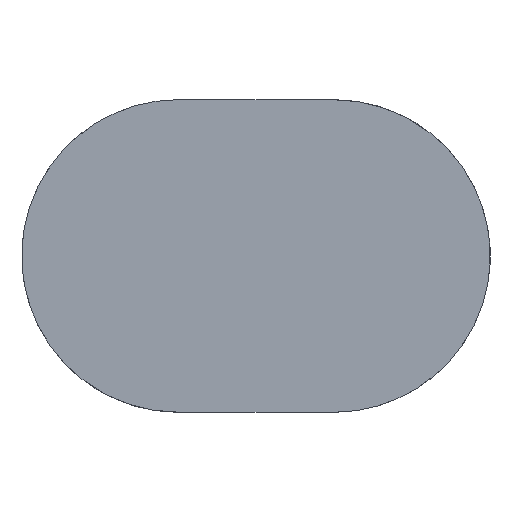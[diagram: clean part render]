
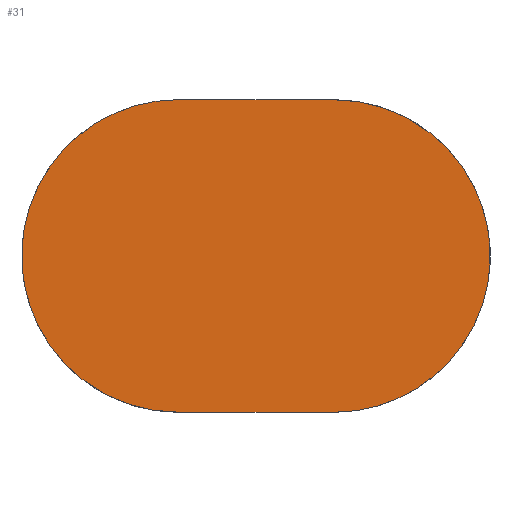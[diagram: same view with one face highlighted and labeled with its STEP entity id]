
A CAD part, top view. The second image highlights one B-rep face of the part: STEP entity #31.
In plain terms, the highlighted free-form (B-spline) face has degree [1, 1] with [2, 2] control points.
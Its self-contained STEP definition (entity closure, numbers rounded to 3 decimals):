
#31=ADVANCED_FACE('',(#48),#551,.T.);
#48=FACE_OUTER_BOUND('',#66,.T.);
#66=EDGE_LOOP('',(#137,#138,#139,#140));
#137=ORIENTED_EDGE('',*,*,#444,.F.);
#138=ORIENTED_EDGE('',*,*,#448,.F.);
#139=ORIENTED_EDGE('',*,*,#451,.F.);
#140=ORIENTED_EDGE('',*,*,#453,.F.);
#197=PCURVE('',#556,#279);
#201=PCURVE('',#557,#283);
#205=PCURVE('',#558,#287);
#209=PCURVE('',#559,#291);
#219=PCURVE('',#551,#301);
#220=PCURVE('',#551,#302);
#221=PCURVE('',#551,#303);
#222=PCURVE('',#551,#304);
#279=DEFINITIONAL_REPRESENTATION('',(#349),#1055);
#283=DEFINITIONAL_REPRESENTATION('',(#353),#1055);
#287=DEFINITIONAL_REPRESENTATION('',(#357),#1055);
#291=DEFINITIONAL_REPRESENTATION('',(#361),#1055);
#301=DEFINITIONAL_REPRESENTATION('',(#515),#1055);
#302=DEFINITIONAL_REPRESENTATION('',(#516),#1055);
#303=DEFINITIONAL_REPRESENTATION('',(#517),#1055);
#304=DEFINITIONAL_REPRESENTATION('',(#518),#1055);
#349=B_SPLINE_CURVE_WITH_KNOTS('',1,(#930,#931),.UNSPECIFIED.,.F.,.F.,(2,
2),(1092.478,1242.478),.UNSPECIFIED.);
#353=B_SPLINE_CURVE_WITH_KNOTS('',1,(#952,#953),.UNSPECIFIED.,.F.,.F.,(2,
2),(621.239,1092.478),.UNSPECIFIED.);
#357=B_SPLINE_CURVE_WITH_KNOTS('',1,(#968,#969),.UNSPECIFIED.,.F.,.F.,(2,
2),(471.239,621.239),.UNSPECIFIED.);
#361=B_SPLINE_CURVE_WITH_KNOTS('',1,(#986,#987),.UNSPECIFIED.,.F.,.F.,(2,
2),(0.,471.239),.UNSPECIFIED.);
#403=SURFACE_CURVE('',#497,(#197,#219),.PCURVE_S1.);
#407=SURFACE_CURVE('',#501,(#201,#220),.PCURVE_S1.);
#410=SURFACE_CURVE('',#504,(#205,#221),.PCURVE_S1.);
#412=SURFACE_CURVE('',#506,(#209,#222),.PCURVE_S1.);
#444=EDGE_CURVE('',#538,#539,#403,.T.);
#448=EDGE_CURVE('',#541,#538,#407,.T.);
#451=EDGE_CURVE('',#543,#541,#410,.T.);
#453=EDGE_CURVE('',#539,#543,#412,.T.);
#497=(
BOUNDED_CURVE()
B_SPLINE_CURVE(2,(#927,#928,#929),.UNSPECIFIED.,.F.,.F.)
B_SPLINE_CURVE_WITH_KNOTS((3,3),(1092.478,1242.478),
 .UNSPECIFIED.)
CURVE()
GEOMETRIC_REPRESENTATION_ITEM()
RATIONAL_B_SPLINE_CURVE((1.,1.,1.))
REPRESENTATION_ITEM('')
);
#501=(
BOUNDED_CURVE()
B_SPLINE_CURVE(2,(#947,#948,#949,#950,#951),.UNSPECIFIED.,.F.,.F.)
B_SPLINE_CURVE_WITH_KNOTS((3,2,3),(621.239,856.858,1092.478),
 .UNSPECIFIED.)
CURVE()
GEOMETRIC_REPRESENTATION_ITEM()
RATIONAL_B_SPLINE_CURVE((1.,0.707,1.,0.707,1.))
REPRESENTATION_ITEM('')
);
#504=(
BOUNDED_CURVE()
B_SPLINE_CURVE(2,(#965,#966,#967),.UNSPECIFIED.,.F.,.F.)
B_SPLINE_CURVE_WITH_KNOTS((3,3),(471.239,621.239),
 .UNSPECIFIED.)
CURVE()
GEOMETRIC_REPRESENTATION_ITEM()
RATIONAL_B_SPLINE_CURVE((1.,1.,1.))
REPRESENTATION_ITEM('')
);
#506=(
BOUNDED_CURVE()
B_SPLINE_CURVE(2,(#981,#982,#983,#984,#985),.UNSPECIFIED.,.F.,.F.)
B_SPLINE_CURVE_WITH_KNOTS((3,2,3),(0.,235.619,471.239),
 .UNSPECIFIED.)
CURVE()
GEOMETRIC_REPRESENTATION_ITEM()
RATIONAL_B_SPLINE_CURVE((1.,0.707,1.,0.707,1.))
REPRESENTATION_ITEM('')
);
#515=(
BOUNDED_CURVE()
B_SPLINE_CURVE(2,(#1016,#1017,#1018),.UNSPECIFIED.,.F.,.F.)
B_SPLINE_CURVE_WITH_KNOTS((3,3),(1092.478,1242.478),
 .UNSPECIFIED.)
CURVE()
GEOMETRIC_REPRESENTATION_ITEM()
RATIONAL_B_SPLINE_CURVE((1.,1.,1.))
REPRESENTATION_ITEM('')
);
#516=(
BOUNDED_CURVE()
B_SPLINE_CURVE(2,(#1019,#1020,#1021,#1022,#1023),.UNSPECIFIED.,.F.,.F.)
B_SPLINE_CURVE_WITH_KNOTS((3,2,3),(621.239,856.858,1092.478),
 .UNSPECIFIED.)
CURVE()
GEOMETRIC_REPRESENTATION_ITEM()
RATIONAL_B_SPLINE_CURVE((1.,0.707,1.,0.707,1.))
REPRESENTATION_ITEM('')
);
#517=(
BOUNDED_CURVE()
B_SPLINE_CURVE(2,(#1024,#1025,#1026),.UNSPECIFIED.,.F.,.F.)
B_SPLINE_CURVE_WITH_KNOTS((3,3),(471.239,621.239),
 .UNSPECIFIED.)
CURVE()
GEOMETRIC_REPRESENTATION_ITEM()
RATIONAL_B_SPLINE_CURVE((1.,1.,1.))
REPRESENTATION_ITEM('')
);
#518=(
BOUNDED_CURVE()
B_SPLINE_CURVE(2,(#1027,#1028,#1029,#1030,#1031),.UNSPECIFIED.,.F.,.F.)
B_SPLINE_CURVE_WITH_KNOTS((3,2,3),(0.,235.619,471.239),
 .UNSPECIFIED.)
CURVE()
GEOMETRIC_REPRESENTATION_ITEM()
RATIONAL_B_SPLINE_CURVE((1.,0.707,1.,0.707,1.))
REPRESENTATION_ITEM('')
);
#538=VERTEX_POINT('',#707);
#539=VERTEX_POINT('',#708);
#541=VERTEX_POINT('',#710);
#543=VERTEX_POINT('',#712);
#551=B_SPLINE_SURFACE_WITH_KNOTS('',1,1,((#684,#685),(#686,#687)),
 .UNSPECIFIED.,.F.,.F.,.F.,(2,2),(2,2),(-206.25,356.25),(-37.5,337.5),
 .UNSPECIFIED.);
#556=(
BOUNDED_SURFACE()
B_SPLINE_SURFACE(2,1,((#612,#613),(#614,#615),(#616,#617)),
 .UNSPECIFIED.,.F.,.F.,.F.)
B_SPLINE_SURFACE_WITH_KNOTS((3,3),(2,2),(-1242.478,-1092.478),
(0.,20.),.UNSPECIFIED.)
GEOMETRIC_REPRESENTATION_ITEM()
RATIONAL_B_SPLINE_SURFACE(((1.,1.),(1.,1.),(1.,1.)))
REPRESENTATION_ITEM('')
SURFACE()
);
#557=(
BOUNDED_SURFACE()
B_SPLINE_SURFACE(2,1,((#618,#619),(#620,#621),(#622,#623),(#624,#625),(#626,
#627)),.UNSPECIFIED.,.F.,.F.,.F.)
B_SPLINE_SURFACE_WITH_KNOTS((3,2,3),(2,2),(-1092.478,-856.858,
-621.239),(0.,20.),.UNSPECIFIED.)
GEOMETRIC_REPRESENTATION_ITEM()
RATIONAL_B_SPLINE_SURFACE(((1.,1.),(0.707,0.707),
(1.,1.),(0.707,0.707),(1.,1.)))
REPRESENTATION_ITEM('')
SURFACE()
);
#558=(
BOUNDED_SURFACE()
B_SPLINE_SURFACE(2,1,((#628,#629),(#630,#631),(#632,#633)),
 .UNSPECIFIED.,.F.,.F.,.F.)
B_SPLINE_SURFACE_WITH_KNOTS((3,3),(2,2),(-621.239,-471.239),
(0.,20.),.UNSPECIFIED.)
GEOMETRIC_REPRESENTATION_ITEM()
RATIONAL_B_SPLINE_SURFACE(((1.,1.),(1.,1.),(1.,1.)))
REPRESENTATION_ITEM('')
SURFACE()
);
#559=(
BOUNDED_SURFACE()
B_SPLINE_SURFACE(2,1,((#634,#635),(#636,#637),(#638,#639),(#640,#641),(#642,
#643)),.UNSPECIFIED.,.F.,.F.,.F.)
B_SPLINE_SURFACE_WITH_KNOTS((3,2,3),(2,2),(-471.239,-235.619,
0.),(0.,20.),.UNSPECIFIED.)
GEOMETRIC_REPRESENTATION_ITEM()
RATIONAL_B_SPLINE_SURFACE(((1.,1.),(0.707,0.707),
(1.,1.),(0.707,0.707),(1.,1.)))
REPRESENTATION_ITEM('')
SURFACE()
);
#612=CARTESIAN_POINT('',(140.651,159.128,486.552));
#613=CARTESIAN_POINT('',(140.651,159.128,506.552));
#614=CARTESIAN_POINT('',(65.651,159.128,486.552));
#615=CARTESIAN_POINT('',(65.651,159.128,506.552));
#616=CARTESIAN_POINT('',(-9.349,159.128,486.552));
#617=CARTESIAN_POINT('',(-9.349,159.128,506.552));
#618=CARTESIAN_POINT('',(-9.349,159.128,486.552));
#619=CARTESIAN_POINT('',(-9.349,159.128,506.552));
#620=CARTESIAN_POINT('',(-159.349,159.128,486.552));
#621=CARTESIAN_POINT('',(-159.349,159.128,506.552));
#622=CARTESIAN_POINT('',(-159.349,9.128,486.552));
#623=CARTESIAN_POINT('',(-159.349,9.128,506.552));
#624=CARTESIAN_POINT('',(-159.349,-140.872,486.552));
#625=CARTESIAN_POINT('',(-159.349,-140.872,506.552));
#626=CARTESIAN_POINT('',(-9.349,-140.872,486.552));
#627=CARTESIAN_POINT('',(-9.349,-140.872,506.552));
#628=CARTESIAN_POINT('',(-9.349,-140.872,486.552));
#629=CARTESIAN_POINT('',(-9.349,-140.872,506.552));
#630=CARTESIAN_POINT('',(65.651,-140.872,486.552));
#631=CARTESIAN_POINT('',(65.651,-140.872,506.552));
#632=CARTESIAN_POINT('',(140.651,-140.872,486.552));
#633=CARTESIAN_POINT('',(140.651,-140.872,506.552));
#634=CARTESIAN_POINT('',(140.651,-140.872,486.552));
#635=CARTESIAN_POINT('',(140.651,-140.872,506.552));
#636=CARTESIAN_POINT('',(290.651,-140.872,486.552));
#637=CARTESIAN_POINT('',(290.651,-140.872,506.552));
#638=CARTESIAN_POINT('',(290.651,9.128,486.552));
#639=CARTESIAN_POINT('',(290.651,9.128,506.552));
#640=CARTESIAN_POINT('',(290.651,159.128,486.552));
#641=CARTESIAN_POINT('',(290.651,159.128,506.552));
#642=CARTESIAN_POINT('',(140.651,159.128,486.552));
#643=CARTESIAN_POINT('',(140.651,159.128,506.552));
#684=CARTESIAN_POINT('',(346.901,196.628,506.552));
#685=CARTESIAN_POINT('',(346.901,-178.372,506.552));
#686=CARTESIAN_POINT('',(-215.599,196.628,506.552));
#687=CARTESIAN_POINT('',(-215.599,-178.372,506.552));
#707=CARTESIAN_POINT('',(-9.349,159.128,506.552));
#708=CARTESIAN_POINT('',(140.651,159.128,506.552));
#710=CARTESIAN_POINT('',(-9.349,-140.872,506.552));
#712=CARTESIAN_POINT('',(140.651,-140.872,506.552));
#927=CARTESIAN_POINT('',(-9.349,159.128,506.552));
#928=CARTESIAN_POINT('',(65.651,159.128,506.552));
#929=CARTESIAN_POINT('',(140.651,159.128,506.552));
#930=CARTESIAN_POINT('',(-1092.478,20.));
#931=CARTESIAN_POINT('',(-1242.478,20.));
#947=CARTESIAN_POINT('',(-9.349,-140.872,506.552));
#948=CARTESIAN_POINT('',(-159.349,-140.872,506.552));
#949=CARTESIAN_POINT('',(-159.349,9.128,506.552));
#950=CARTESIAN_POINT('',(-159.349,159.128,506.552));
#951=CARTESIAN_POINT('',(-9.349,159.128,506.552));
#952=CARTESIAN_POINT('',(-621.239,20.));
#953=CARTESIAN_POINT('',(-1092.478,20.));
#965=CARTESIAN_POINT('',(140.651,-140.872,506.552));
#966=CARTESIAN_POINT('',(65.651,-140.872,506.552));
#967=CARTESIAN_POINT('',(-9.349,-140.872,506.552));
#968=CARTESIAN_POINT('',(-471.239,20.));
#969=CARTESIAN_POINT('',(-621.239,20.));
#981=CARTESIAN_POINT('',(140.651,159.128,506.552));
#982=CARTESIAN_POINT('',(290.651,159.128,506.552));
#983=CARTESIAN_POINT('',(290.651,9.128,506.552));
#984=CARTESIAN_POINT('',(290.651,-140.872,506.552));
#985=CARTESIAN_POINT('',(140.651,-140.872,506.552));
#986=CARTESIAN_POINT('',(0.,20.));
#987=CARTESIAN_POINT('',(-471.239,20.));
#1016=CARTESIAN_POINT('',(150.,0.));
#1017=CARTESIAN_POINT('',(75.,0.));
#1018=CARTESIAN_POINT('',(0.,0.));
#1019=CARTESIAN_POINT('',(150.,300.));
#1020=CARTESIAN_POINT('',(300.,300.));
#1021=CARTESIAN_POINT('',(300.,150.));
#1022=CARTESIAN_POINT('',(300.,0.));
#1023=CARTESIAN_POINT('',(150.,0.));
#1024=CARTESIAN_POINT('',(0.,300.));
#1025=CARTESIAN_POINT('',(75.,300.));
#1026=CARTESIAN_POINT('',(150.,300.));
#1027=CARTESIAN_POINT('',(0.,0.));
#1028=CARTESIAN_POINT('',(-150.,0.));
#1029=CARTESIAN_POINT('',(-150.,150.));
#1030=CARTESIAN_POINT('',(-150.,300.));
#1031=CARTESIAN_POINT('',(0.,300.));
#1055=(
GEOMETRIC_REPRESENTATION_CONTEXT(2)
PARAMETRIC_REPRESENTATION_CONTEXT()
REPRESENTATION_CONTEXT('pspace','')
);
